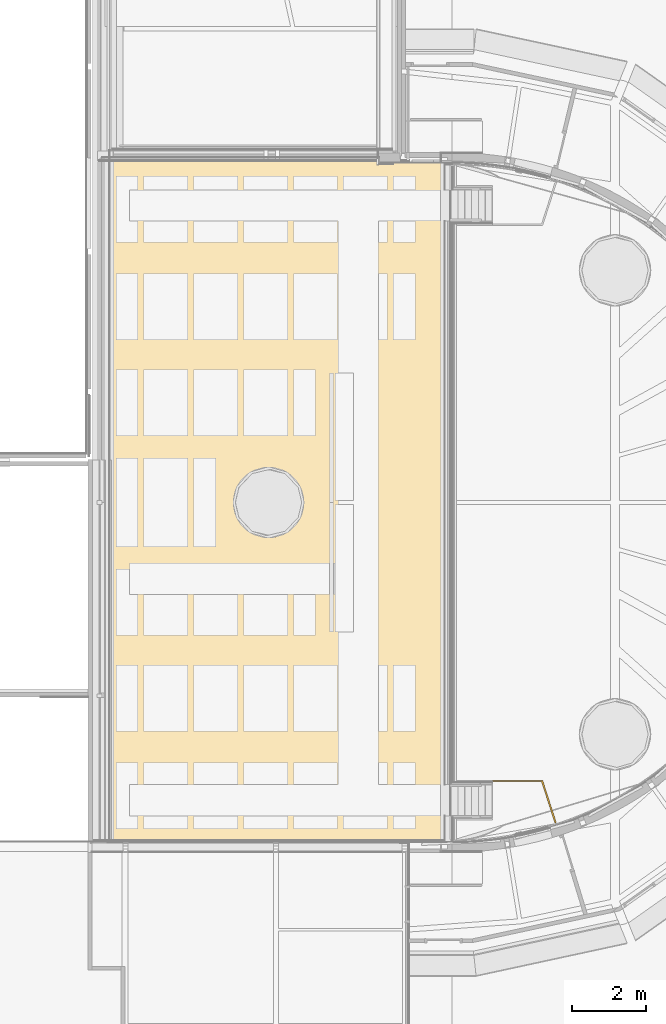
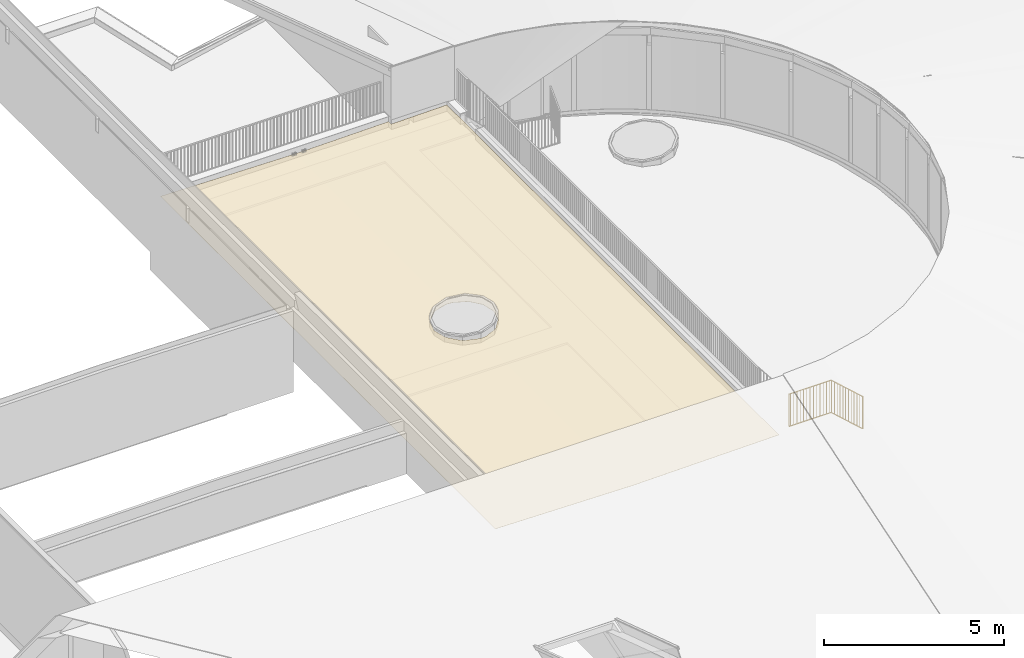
# One storey, part 63 of 66: 1 covering, 1 railing.
"""IFC2X3 building model written with IfcOpenShell, lengths in millimetres."""

from ifc_helpers import new_model, entity, si_unit, converted_unit, derived_unit, direction, frame, origin, place, context, subcontext, project, spatial, faceted_brep, material, material_list, layer, layer_set, layer_usage, type_object, element, save


model = new_model("IFC2X3")

# Units and contexts
model_context = context("Model", 3, precision=0.01, world=origin(), true_north=direction((6.12303176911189e-17, 1.0)))
body_context = subcontext(model_context, "Body", "Model", "MODEL_VIEW")
ifc_project = project(units=[si_unit("LENGTHUNIT", "METRE", prefix="MILLI"), si_unit("AREAUNIT", "SQUARE_METRE"), si_unit("VOLUMEUNIT", "CUBIC_METRE"), converted_unit("PLANEANGLEUNIT", "DEGREE", entity("IfcRatioMeasure", 0.0174532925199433), si_unit("PLANEANGLEUNIT", "RADIAN"), dimensions=[0, 0, 0, 0, 0, 0, 0]), si_unit("MASSUNIT", "GRAM", prefix="KILO"), derived_unit("MASSDENSITYUNIT", [(si_unit("MASSUNIT", "GRAM", prefix="KILO"), 1), (si_unit("LENGTHUNIT", "METRE"), -3)]), derived_unit("MOMENTOFINERTIAUNIT", [(si_unit("LENGTHUNIT", "METRE"), 4)]), si_unit("TIMEUNIT", "SECOND"), si_unit("FREQUENCYUNIT", "HERTZ"), si_unit("THERMODYNAMICTEMPERATUREUNIT", "DEGREE_CELSIUS"), derived_unit("THERMALTRANSMITTANCEUNIT", [(si_unit("MASSUNIT", "GRAM", prefix="KILO"), 1), (si_unit("THERMODYNAMICTEMPERATUREUNIT", "KELVIN"), -1), (si_unit("TIMEUNIT", "SECOND"), -3)]), derived_unit("VOLUMETRICFLOWRATEUNIT", [(si_unit("LENGTHUNIT", "METRE"), 3), (si_unit("TIMEUNIT", "SECOND"), -1)]), si_unit("ELECTRICCURRENTUNIT", "AMPERE"), si_unit("ELECTRICVOLTAGEUNIT", "VOLT"), si_unit("POWERUNIT", "WATT"), si_unit("FORCEUNIT", "NEWTON", prefix="KILO"), si_unit("ILLUMINANCEUNIT", "LUX"), si_unit("LUMINOUSFLUXUNIT", "LUMEN"), si_unit("LUMINOUSINTENSITYUNIT", "CANDELA"), derived_unit("USERDEFINED", [(si_unit("MASSUNIT", "GRAM", prefix="KILO"), -1), (si_unit("LENGTHUNIT", "METRE"), -2), (si_unit("TIMEUNIT", "SECOND"), 3), (si_unit("LUMINOUSFLUXUNIT", "LUMEN"), 1)]), derived_unit("LINEARVELOCITYUNIT", [(si_unit("LENGTHUNIT", "METRE"), 1), (si_unit("TIMEUNIT", "SECOND"), -1)]), si_unit("PRESSUREUNIT", "PASCAL"), derived_unit("USERDEFINED", [(si_unit("LENGTHUNIT", "METRE"), -2), (si_unit("MASSUNIT", "GRAM", prefix="KILO"), 1), (si_unit("TIMEUNIT", "SECOND"), -2)]), derived_unit("LINEARFORCEUNIT", [(si_unit("MASSUNIT", "GRAM", prefix="KILO"), 1), (si_unit("LENGTHUNIT", "METRE"), 1), (si_unit("TIMEUNIT", "SECOND"), -2), (si_unit("LENGTHUNIT", "METRE"), -1)]), derived_unit("PLANARFORCEUNIT", [(si_unit("MASSUNIT", "GRAM", prefix="KILO"), 1), (si_unit("LENGTHUNIT", "METRE"), 1), (si_unit("TIMEUNIT", "SECOND"), -2), (si_unit("LENGTHUNIT", "METRE"), -2)])], contexts=[model_context])

# Site, building, storey
site_placement = place(None, origin())
site = spatial("IfcSite", under=ifc_project, at=site_placement, Name="Default", CompositionType="ELEMENT")
building_placement = place(site_placement, origin())
building = spatial("IfcBuilding", under=site, at=building_placement, Name="-", CompositionType="ELEMENT")
storey_placement = place(building_placement, frame((0.0, 0.0, 3070.0)))
storey = spatial("IfcBuildingStorey", under=building, at=storey_placement, Name="01 eerste verdieping", CompositionType="ELEMENT", Elevation=3070.00000000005)

# Covering
ifc_material_1 = material(Name="NLRS_n2_bitumen_dak bedekking")
ifc_layer = layer(ifc_material_1, 6.0)
ifc_layer_set = layer_set([ifc_layer], Name="Basic Roof:47.11_2 laagse Bitumen dakbedekking")
ifc_layer_usage = layer_usage(ifc_layer_set, "AXIS3", "NEGATIVE", 0.0)
covering_type = type_object("IfcCoveringType", Name="Basic Roof:47.11_2 laagse Bitumen dakbedekking", PredefinedType="NOTDEFINED")
covering_placement = place(storey_placement, frame((41367.6645167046, 10402.124095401, 1528.17731722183)))
element("IfcCovering", 1, at=covering_placement, inside=storey, type_object=covering_type, material=ifc_layer_usage, Name="Basic Roof:47.11_2 laagse Bitumen dakbedekking", ObjectType="Basic Roof:47.11_2 laagse Bitumen dakbedekking", PredefinedType="NOTDEFINED", context=body_context, shape_type="Brep", body=[
    faceted_brep([(4496.76604073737, 8282.13721286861, 7.59527223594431), (4397.24522657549, 8267.79559752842, 7.59527223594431), (4296.76604073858, 8264.05292527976, 7.59527223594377), (4296.76604073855, 0.0, 7.59527223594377), (4496.76604073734, 0.0, 7.59527223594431), (4496.7660407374, 18561.5826870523, 7.59527223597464), (4296.76604073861, 18561.5826870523, 7.59527223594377), (4296.76604073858, 10163.8183418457, 7.59527223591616), (4397.2452265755, 10160.075669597, 7.59527223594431), (4496.76604073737, 10145.7340542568, 7.59527223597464), (4397.24569061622, 8267.79563948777, 1.59527223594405), (4496.81403766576, 8282.1467472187, 1.59527223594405), (4496.81403766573, 0.0, 1.59527223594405), (4296.71804381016, 0.0, 1.59527223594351), (4296.71804381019, 8264.05368078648, 1.59527223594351), (4296.71804381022, 18561.5826870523, 1.5952722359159), (4496.81403766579, 18561.5826870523, 1.59527223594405), (4496.81403766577, 10145.7245199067, 1.59527223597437), (4397.24569061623, 10160.0756276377, 1.59527223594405), (4296.7180438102, 10163.817586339, 1.59527223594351), (0.0, 18561.5826870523, 76.3435288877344), (7298.89814530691, 18561.5826870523, 52.4293859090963), (7298.89814530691, 18561.5826870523, 46.4286179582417), (0.0, 18561.5826870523, 70.3427609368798), (9076.1799132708, 0.0, 74.8651262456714), (9076.1799132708, 0.0, 80.865894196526), (0.0, 0.0, 76.3435288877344), (0.0, 0.0, 70.3427609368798), (7298.8981453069, 18415.3712671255, 52.4293859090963), (4693.32054974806, 10056.7322202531, 10.7401443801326), (4889.87505875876, 9967.73038624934, 13.8850165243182), (5026.77920668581, 9800.96031774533, 16.0754828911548), (5095.23128064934, 9717.57528349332, 17.1707160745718), (5163.68335461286, 9634.19024924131, 18.2659492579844), (5201.20518677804, 9473.3021971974, 18.8662985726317), (5231.44953539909, 9343.61891538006, 19.3502081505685), (5261.69388402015, 9213.93563356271, 19.8341177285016), (5212.6886193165, 9003.80832572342, 19.0500334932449), (5188.18598696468, 8898.74467180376, 18.6579913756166), (5163.68335461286, 8793.68101788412, 18.265949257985), (5026.77920668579, 8626.9109493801, 16.0754828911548), (4958.32713272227, 8543.52591512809, 14.9802497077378), (4889.87505875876, 8460.14088087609, 13.8850165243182), (4693.32054974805, 8371.13904687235, 10.7401443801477), (9076.17991327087, 18415.3712671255, 80.865894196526), (7298.89814530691, 18415.3712671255, 46.4286179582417), (9076.17991327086, 18415.3712671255, 74.8651262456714), (4693.35749076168, 8371.15374168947, 4.73996748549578), (4889.90094385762, 8460.16073616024, 7.88466273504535), (4958.34835046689, 8543.54446378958, 8.97982124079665), (5026.79575707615, 8626.92819141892, 10.0749797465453), (5163.69057029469, 8793.6956466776, 12.2652967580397), (5188.19139872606, 8898.75564339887, 12.6573100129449), (5212.69222715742, 9003.81564012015, 13.0493232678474), (5261.69388402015, 9213.93563356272, 13.8333497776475), (5237.19305558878, 9318.995630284, 13.4413365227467), (5212.69222715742, 9424.05562700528, 13.0493232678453), (5188.19139872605, 9529.11562372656, 12.6573100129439), (5175.94098451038, 9581.6456220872, 12.4613033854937), (5163.69057029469, 9634.17562044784, 12.2652967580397), (5095.24316368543, 9717.55934807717, 11.1701382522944), (5026.79575707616, 9800.94307570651, 10.0749797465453), (4889.90094385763, 9967.71053096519, 7.88466273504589), (4693.3574907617, 10056.717525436, 4.73996748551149), (4172.11539066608, 8301.71330426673, 9.58968263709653), (4047.46474059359, 8339.37368325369, 11.5840930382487), (3922.8140905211, 8377.03406224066, 13.5785034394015), (3798.16344044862, 8414.69444122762, 15.5729138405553), (3712.10544525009, 8512.41910634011, 16.9498417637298), (3626.04745005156, 8610.14377145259, 18.3267696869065), (3539.98945485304, 8707.86843656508, 19.7036976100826), (3453.93145965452, 8805.59310167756, 21.0806255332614), (3430.87206574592, 8907.67873464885, 21.4495758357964), (3407.81267183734, 9009.76436762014, 21.818526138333), (3384.75327792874, 9111.85000059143, 22.1874764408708), (3361.69388402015, 9213.93563356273, 22.5564267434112), (3397.39091288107, 9339.16267073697, 21.9852742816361), (3433.087941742, 9464.38970791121, 21.4141218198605), (3468.78497060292, 9589.61674508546, 20.8429693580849), (3504.48199946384, 9714.8437822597, 20.271816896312), (3600.8423250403, 9802.42675071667, 18.7300516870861), (3697.20265061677, 9890.00971917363, 17.1882864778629), (3793.56297619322, 9977.5926876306, 15.6465212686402), (3889.92330176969, 10065.1756560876, 14.1047560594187), (3991.63398651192, 10089.8363275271, 12.4773851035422), (4093.34467125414, 10114.4969989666, 10.8500141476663), (4195.05535599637, 10139.1576704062, 9.22264319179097), (4172.07290257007, 10126.1532258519, 3.58959449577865), (4047.42776132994, 10088.4888653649, 5.58391675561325), (3922.78262008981, 10050.8245048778, 7.57823901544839), (3798.13747884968, 10013.1601443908, 9.57256127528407), (3712.08450026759, 9915.43655377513, 10.9494089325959), (3626.03152168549, 9817.71296315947, 12.3262565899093), (3539.9785431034, 9719.9893725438, 13.7031042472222), (3453.9255645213, 9622.26578192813, 15.0799519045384), (3430.86764439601, 9520.18324483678, 15.4488786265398), (3407.80972427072, 9418.10070774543, 15.817805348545), (3384.75180414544, 9316.01817065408, 16.1867320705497), (3361.69388402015, 9213.93563356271, 16.5556587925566), (3397.38865304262, 9088.71223818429, 15.9845424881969), (3433.08342206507, 8963.48884280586, 15.4134261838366), (3468.77819108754, 8838.26544742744, 14.8423098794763), (3504.47296011, 8713.042052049, 14.2711935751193), (3600.82786477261, 8625.45924761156, 12.7295151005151), (3697.18276943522, 8537.87644317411, 11.1878366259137), (3793.53767409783, 8450.29363873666, 9.64615815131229), (3889.89257876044, 8362.71083429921, 8.10447967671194), (3991.59894502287, 8338.04654592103, 6.47717781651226), (4093.30531128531, 8313.38225754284, 4.84987595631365), (4195.01167754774, 8288.71796916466, 3.22257409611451)], [[[0, 1, 2, 3, 4]], [[5, 6, 7, 8, 9]], [[10, 11, 12, 13, 14]], [[15, 16, 17, 18, 19]], [[20, 6, 5, 21, 22, 16, 15, 23]], [[24, 25, 4, 3, 26, 27, 13, 12]], [[28, 21, 5, 9, 29, 30, 31, 32, 33, 34, 35, 36, 37, 38, 39, 40, 41, 42, 43, 0, 4, 25, 44]], [[45, 46, 24, 12, 11, 47, 48, 49, 50, 51, 52, 53, 54, 55, 56, 57, 58, 59, 60, 61, 62, 63, 17, 16, 22]], [[20, 26, 3, 2, 64, 65, 66, 67, 68, 69, 70, 71, 72, 73, 74, 75, 76, 77, 78, 79, 80, 81, 82, 83, 84, 85, 86, 7, 6]], [[46, 44, 25, 24]], [[15, 19, 87, 88, 89, 90, 91, 92, 93, 94, 95, 96, 97, 98, 99, 100, 101, 102, 103, 104, 105, 106, 107, 108, 109, 14, 13, 27, 23]], [[20, 23, 27, 26]], [[108, 65, 64]], [[65, 107, 66]], [[67, 66, 106]], [[2, 1, 10]], [[10, 14, 2]], [[106, 105, 67]], [[67, 105, 68]], [[99, 73, 100]], [[70, 102, 71]], [[101, 71, 102]], [[69, 68, 104]], [[108, 107, 65]], [[102, 70, 103]], [[106, 66, 107]], [[43, 42, 48]], [[109, 108, 64]], [[1, 0, 10]], [[11, 10, 0]], [[47, 43, 48]], [[69, 103, 70]], [[73, 72, 100]], [[11, 0, 47]], [[43, 47, 0]], [[49, 48, 42]], [[51, 39, 52]], [[99, 98, 74]], [[14, 109, 2]], [[37, 36, 54]], [[51, 40, 39]], [[104, 103, 69]], [[104, 68, 105]], [[64, 2, 109]], [[100, 72, 101]], [[71, 101, 72]], [[75, 74, 98]], [[74, 73, 99]], [[41, 50, 49]], [[50, 40, 51]], [[41, 40, 50]], [[41, 49, 42]], [[38, 53, 52]], [[53, 37, 54]], [[38, 37, 53]], [[38, 52, 39]], [[9, 17, 63]], [[94, 78, 95]], [[8, 18, 9]], [[17, 9, 18]], [[77, 95, 78]], [[63, 62, 29]], [[59, 58, 57, 33]], [[86, 85, 87, 7]], [[33, 32, 59]], [[31, 30, 61]], [[81, 80, 92]], [[54, 36, 55]], [[85, 84, 88]], [[76, 75, 97]], [[83, 82, 90]], [[98, 97, 75]], [[19, 7, 87]], [[7, 18, 8]], [[87, 85, 88]], [[90, 82, 91]], [[7, 19, 18]], [[89, 83, 90]], [[29, 9, 63]], [[91, 81, 92]], [[96, 77, 76]], [[79, 93, 80]], [[89, 88, 84]], [[79, 78, 94]], [[79, 94, 93]], [[92, 80, 93]], [[96, 95, 77]], [[30, 29, 62]], [[84, 83, 89]], [[81, 91, 82]], [[97, 96, 76]], [[34, 33, 57]], [[35, 56, 55]], [[57, 56, 34]], [[35, 34, 56]], [[35, 55, 36]], [[62, 61, 30]], [[60, 32, 31]], [[61, 60, 31]], [[60, 59, 32]], [[28, 44, 46, 45]], [[45, 22, 21, 28]]]),
])

# Railing
ifc_material_2 = material(Name="AL_Aluminium antraciet")
ifc_material_3 = material(Name="AL_Aluminium RAL 7021")
ifc_material_list = material_list([ifc_material_2, ifc_material_3])
railing_placement = place(storey_placement, frame((51726.6203901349, 10938.2825559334, 425.0)))
element("IfcRailing", 2, at=railing_placement, inside=storey, material=ifc_material_list, Name="Railing:NLRS_34_RAI_UN_spijlen 2", ObjectType="Railing:NLRS_34_RAI_UN_spijlen 2", PredefinedType="NOTDEFINED", context=body_context, shape_type="Brep", body=[
    faceted_brep([(54.7762133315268, 1150.61404051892, 1095.0), (44.7762133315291, 1150.61404051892, 1095.0), (44.7762133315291, 1125.61404051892, 1095.0), (54.7762133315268, 1125.61404051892, 1095.0), (54.7762133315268, 1150.61404051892, 5.0), (54.7762133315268, 1125.61404051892, 5.0), (44.7762133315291, 1125.61404051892, 5.0), (44.7762133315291, 1150.61404051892, 5.0)], [[[0, 1, 2, 3]], [[4, 5, 6, 7]], [[1, 0, 4, 7]], [[2, 1, 7, 6]], [[3, 2, 6, 5]], [[0, 3, 5, 4]]]),
    faceted_brep([(159.776213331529, 1150.61404051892, 1095.0), (149.776213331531, 1150.61404051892, 1095.0), (149.776213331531, 1125.61404051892, 1095.0), (159.776213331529, 1125.61404051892, 1095.0), (159.776213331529, 1150.61404051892, 5.0), (159.776213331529, 1125.61404051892, 5.0), (149.776213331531, 1125.61404051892, 5.0), (149.776213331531, 1150.61404051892, 5.0)], [[[0, 1, 2, 3]], [[4, 5, 6, 7]], [[1, 0, 4, 7]], [[2, 1, 7, 6]], [[3, 2, 6, 5]], [[0, 3, 5, 4]]]),
    faceted_brep([(264.776213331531, 1150.61404051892, 1095.0), (254.776213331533, 1150.61404051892, 1095.0), (254.776213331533, 1125.61404051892, 1095.0), (264.776213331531, 1125.61404051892, 1095.0), (264.776213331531, 1150.61404051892, 5.0), (264.776213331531, 1125.61404051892, 5.0), (254.776213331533, 1125.61404051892, 5.0), (254.776213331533, 1150.61404051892, 5.0)], [[[0, 1, 2, 3]], [[4, 5, 6, 7]], [[1, 0, 4, 7]], [[2, 1, 7, 6]], [[3, 2, 6, 5]], [[0, 3, 5, 4]]]),
    faceted_brep([(369.776213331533, 1150.61404051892, 1095.0), (359.776213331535, 1150.61404051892, 1095.0), (359.776213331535, 1125.61404051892, 1095.0), (369.776213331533, 1125.61404051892, 1095.0), (369.776213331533, 1150.61404051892, 5.0), (369.776213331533, 1125.61404051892, 5.0), (359.776213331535, 1125.61404051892, 5.0), (359.776213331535, 1150.61404051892, 5.0)], [[[0, 1, 2, 3]], [[4, 5, 6, 7]], [[1, 0, 4, 7]], [[2, 1, 7, 6]], [[3, 2, 6, 5]], [[0, 3, 5, 4]]]),
    faceted_brep([(474.776213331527, 1150.61404051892, 1095.0), (464.776213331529, 1150.61404051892, 1095.0), (464.776213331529, 1125.61404051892, 1095.0), (474.776213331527, 1125.61404051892, 1095.0), (474.776213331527, 1150.61404051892, 5.0), (474.776213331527, 1125.61404051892, 5.0), (464.776213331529, 1125.61404051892, 5.0), (464.776213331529, 1150.61404051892, 5.0)], [[[0, 1, 2, 3]], [[4, 5, 6, 7]], [[1, 0, 4, 7]], [[2, 1, 7, 6]], [[3, 2, 6, 5]], [[0, 3, 5, 4]]]),
    faceted_brep([(579.776213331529, 1150.61404051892, 1095.0), (569.776213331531, 1150.61404051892, 1095.0), (569.776213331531, 1125.61404051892, 1095.0), (579.776213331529, 1125.61404051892, 1095.0), (579.776213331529, 1150.61404051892, 5.0), (579.776213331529, 1125.61404051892, 5.0), (569.776213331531, 1125.61404051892, 5.0), (569.776213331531, 1150.61404051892, 5.0)], [[[0, 1, 2, 3]], [[4, 5, 6, 7]], [[1, 0, 4, 7]], [[2, 1, 7, 6]], [[3, 2, 6, 5]], [[0, 3, 5, 4]]]),
    faceted_brep([(684.776213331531, 1150.61404051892, 1095.0), (674.776213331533, 1150.61404051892, 1095.0), (674.776213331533, 1125.61404051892, 1095.0), (684.776213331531, 1125.61404051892, 1095.0), (684.776213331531, 1150.61404051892, 5.0), (684.776213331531, 1125.61404051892, 5.0), (674.776213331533, 1125.61404051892, 5.0), (674.776213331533, 1150.61404051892, 5.0)], [[[0, 1, 2, 3]], [[4, 5, 6, 7]], [[1, 0, 4, 7]], [[2, 1, 7, 6]], [[3, 2, 6, 5]], [[0, 3, 5, 4]]]),
    faceted_brep([(789.776213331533, 1150.61404051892, 1095.0), (779.776213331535, 1150.61404051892, 1095.0), (779.776213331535, 1125.61404051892, 1095.0), (789.776213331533, 1125.61404051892, 1095.0), (789.776213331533, 1150.61404051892, 5.0), (789.776213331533, 1125.61404051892, 5.0), (779.776213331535, 1125.61404051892, 5.0), (779.776213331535, 1150.61404051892, 5.0)], [[[0, 1, 2, 3]], [[4, 5, 6, 7]], [[1, 0, 4, 7]], [[2, 1, 7, 6]], [[3, 2, 6, 5]], [[0, 3, 5, 4]]]),
    faceted_brep([(894.776213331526, 1150.61404051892, 1095.0), (884.776213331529, 1150.61404051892, 1095.0), (884.776213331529, 1125.61404051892, 1095.0), (894.776213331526, 1125.61404051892, 1095.0), (894.776213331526, 1150.61404051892, 5.0), (894.776213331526, 1125.61404051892, 5.0), (884.776213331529, 1125.61404051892, 5.0), (884.776213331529, 1150.61404051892, 5.0)], [[[0, 1, 2, 3]], [[4, 5, 6, 7]], [[1, 0, 4, 7]], [[2, 1, 7, 6]], [[3, 2, 6, 5]], [[0, 3, 5, 4]]]),
    faceted_brep([(999.776213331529, 1150.61404051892, 1095.0), (989.776213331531, 1150.61404051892, 1095.0), (989.776213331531, 1125.61404051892, 1095.0), (999.776213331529, 1125.61404051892, 1095.0), (999.776213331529, 1150.61404051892, 5.0), (999.776213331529, 1125.61404051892, 5.0), (989.776213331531, 1125.61404051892, 5.0), (989.776213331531, 1150.61404051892, 5.0)], [[[0, 1, 2, 3]], [[4, 5, 6, 7]], [[1, 0, 4, 7]], [[2, 1, 7, 6]], [[3, 2, 6, 5]], [[0, 3, 5, 4]]]),
    faceted_brep([(1104.77621333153, 1150.61404051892, 1095.0), (1094.77621333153, 1150.61404051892, 1095.0), (1094.77621333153, 1125.61404051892, 1095.0), (1104.77621333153, 1125.61404051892, 1095.0), (1104.77621333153, 1150.61404051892, 5.0), (1104.77621333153, 1125.61404051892, 5.0), (1094.77621333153, 1125.61404051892, 5.0), (1094.77621333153, 1150.61404051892, 5.0)], [[[0, 1, 2, 3]], [[4, 5, 6, 7]], [[1, 0, 4, 7]], [[2, 1, 7, 6]], [[3, 2, 6, 5]], [[0, 3, 5, 4]]]),
    faceted_brep([(1209.77621333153, 1150.61404051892, 1095.0), (1199.77621333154, 1150.61404051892, 1095.0), (1199.77621333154, 1125.61404051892, 1095.0), (1209.77621333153, 1125.61404051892, 1095.0), (1209.77621333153, 1150.61404051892, 5.0), (1209.77621333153, 1125.61404051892, 5.0), (1199.77621333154, 1125.61404051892, 5.0), (1199.77621333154, 1150.61404051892, 5.0)], [[[0, 1, 2, 3]], [[4, 5, 6, 7]], [[1, 0, 4, 7]], [[2, 1, 7, 6]], [[3, 2, 6, 5]], [[0, 3, 5, 4]]]),
    faceted_brep([(1314.77621333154, 1150.61404051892, 1095.0), (1304.77621333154, 1150.61404051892, 1095.0), (1304.77621333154, 1125.61404051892, 1095.0), (1314.77621333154, 1125.61404051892, 1095.0), (1314.77621333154, 1150.61404051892, 5.0), (1314.77621333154, 1125.61404051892, 5.0), (1304.77621333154, 1125.61404051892, 5.0), (1304.77621333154, 1150.61404051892, 5.0)], [[[0, 1, 2, 3]], [[4, 5, 6, 7]], [[1, 0, 4, 7]], [[2, 1, 7, 6]], [[3, 2, 6, 5]], [[0, 3, 5, 4]]]),
    faceted_brep([(1372.89166024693, 1121.99884929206, 1095.0), (1369.8188194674, 1131.51502759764, 1095.0), (1346.02837370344, 1123.83292564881, 1095.0), (1349.10121448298, 1114.31674734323, 1095.0), (1372.89166024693, 1121.99884929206, 5.0), (1349.10121448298, 1114.31674734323, 5.0), (1346.02837370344, 1123.83292564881, 5.0), (1369.8188194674, 1131.51502759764, 5.0)], [[[0, 1, 2, 3]], [[4, 5, 6, 7]], [[1, 0, 4, 7]], [[2, 1, 7, 6]], [[3, 2, 6, 5]], [[0, 3, 5, 4]]]),
    faceted_brep([(1405.15648843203, 1022.07897708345, 1095.0), (1402.0836476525, 1031.59515538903, 1095.0), (1378.29320188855, 1023.91305344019, 1095.0), (1381.36604266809, 1014.39687513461, 1095.0), (1405.15648843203, 1022.07897708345, 5.0), (1381.36604266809, 1014.39687513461, 5.0), (1378.29320188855, 1023.91305344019, 5.0), (1402.0836476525, 1031.59515538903, 5.0)], [[[0, 1, 2, 3]], [[4, 5, 6, 7]], [[1, 0, 4, 7]], [[2, 1, 7, 6]], [[3, 2, 6, 5]], [[0, 3, 5, 4]]]),
    faceted_brep([(1437.42131661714, 922.159104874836, 1095.0), (1434.34847583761, 931.675283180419, 1095.0), (1410.55803007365, 923.993181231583, 1095.0), (1413.63087085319, 914.477002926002, 1095.0), (1437.42131661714, 922.159104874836, 5.0), (1413.63087085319, 914.477002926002, 5.0), (1410.55803007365, 923.993181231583, 5.0), (1434.34847583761, 931.675283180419, 5.0)], [[[0, 1, 2, 3]], [[4, 5, 6, 7]], [[1, 0, 4, 7]], [[2, 1, 7, 6]], [[3, 2, 6, 5]], [[0, 3, 5, 4]]]),
    faceted_brep([(1469.68614480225, 822.239232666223, 1095.0), (1466.61330402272, 831.755410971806, 1095.0), (1442.82285825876, 824.07330902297, 1095.0), (1445.8956990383, 814.557130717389, 1095.0), (1469.68614480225, 822.239232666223, 5.0), (1445.8956990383, 814.557130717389, 5.0), (1442.82285825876, 824.07330902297, 5.0), (1466.61330402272, 831.755410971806, 5.0)], [[[0, 1, 2, 3]], [[4, 5, 6, 7]], [[1, 0, 4, 7]], [[2, 1, 7, 6]], [[3, 2, 6, 5]], [[0, 3, 5, 4]]]),
    faceted_brep([(1501.95097298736, 722.31936045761, 1095.0), (1498.87813220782, 731.835538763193, 1095.0), (1475.08768644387, 724.153436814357, 1095.0), (1478.16052722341, 714.637258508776, 1095.0), (1501.95097298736, 722.31936045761, 5.0), (1478.16052722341, 714.637258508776, 5.0), (1475.08768644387, 724.153436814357, 5.0), (1498.87813220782, 731.835538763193, 5.0)], [[[0, 1, 2, 3]], [[4, 5, 6, 7]], [[1, 0, 4, 7]], [[2, 1, 7, 6]], [[3, 2, 6, 5]], [[0, 3, 5, 4]]]),
    faceted_brep([(1534.21580117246, 622.399488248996, 1095.0), (1531.14296039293, 631.91566655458, 1095.0), (1507.35251462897, 624.233564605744, 1095.0), (1510.42535540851, 614.717386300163, 1095.0), (1534.21580117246, 622.399488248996, 5.0), (1510.42535540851, 614.717386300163, 5.0), (1507.35251462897, 624.233564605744, 5.0), (1531.14296039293, 631.91566655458, 5.0)], [[[0, 1, 2, 3]], [[4, 5, 6, 7]], [[1, 0, 4, 7]], [[2, 1, 7, 6]], [[3, 2, 6, 5]], [[0, 3, 5, 4]]]),
    faceted_brep([(1566.48062935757, 522.479616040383, 1095.0), (1563.40778857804, 531.995794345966, 1095.0), (1539.61734281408, 524.313692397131, 1095.0), (1542.69018359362, 514.79751409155, 1095.0), (1566.48062935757, 522.479616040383, 5.0), (1542.69018359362, 514.79751409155, 5.0), (1539.61734281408, 524.313692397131, 5.0), (1563.40778857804, 531.995794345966, 5.0)], [[[0, 1, 2, 3]], [[4, 5, 6, 7]], [[1, 0, 4, 7]], [[2, 1, 7, 6]], [[3, 2, 6, 5]], [[0, 3, 5, 4]]]),
    faceted_brep([(1598.74545754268, 422.55974383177, 1095.0), (1595.67261676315, 432.075922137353, 1095.0), (1571.88217099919, 424.393820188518, 1095.0), (1574.95501177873, 414.877641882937, 1095.0), (1598.74545754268, 422.55974383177, 5.0), (1574.95501177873, 414.877641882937, 5.0), (1571.88217099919, 424.393820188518, 5.0), (1595.67261676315, 432.075922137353, 5.0)], [[[0, 1, 2, 3]], [[4, 5, 6, 7]], [[1, 0, 4, 7]], [[2, 1, 7, 6]], [[3, 2, 6, 5]], [[0, 3, 5, 4]]]),
    faceted_brep([(1631.01028572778, 322.639871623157, 1095.0), (1627.93744494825, 332.15604992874, 1095.0), (1604.14699918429, 324.473947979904, 1095.0), (1607.21983996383, 314.957769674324, 1095.0), (1631.01028572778, 322.639871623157, 5.0), (1607.21983996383, 314.957769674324, 5.0), (1604.14699918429, 324.473947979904, 5.0), (1627.93744494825, 332.15604992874, 5.0)], [[[0, 1, 2, 3]], [[4, 5, 6, 7]], [[1, 0, 4, 7]], [[2, 1, 7, 6]], [[3, 2, 6, 5]], [[0, 3, 5, 4]]]),
    faceted_brep([(1663.27511391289, 222.719999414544, 1095.0), (1660.20227313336, 232.236177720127, 1095.0), (1636.4118273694, 224.554075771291, 1095.0), (1639.48466814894, 215.03789746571, 1095.0), (1663.27511391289, 222.719999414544, 5.0), (1639.48466814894, 215.03789746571, 5.0), (1636.4118273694, 224.554075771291, 5.0), (1660.20227313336, 232.236177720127, 5.0)], [[[0, 1, 2, 3]], [[4, 5, 6, 7]], [[1, 0, 4, 7]], [[2, 1, 7, 6]], [[3, 2, 6, 5]], [[0, 3, 5, 4]]]),
    faceted_brep([(1695.539942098, 122.800127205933, 1095.0), (1692.46710131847, 132.316305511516, 1095.0), (1668.67665555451, 124.63420356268, 1095.0), (1671.74949633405, 115.1180252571, 1095.0), (1695.539942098, 122.800127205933, 5.0), (1671.74949633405, 115.1180252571, 5.0), (1668.67665555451, 124.63420356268, 5.0), (1692.46710131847, 132.316305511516, 5.0)], [[[0, 1, 2, 3]], [[4, 5, 6, 7]], [[1, 0, 4, 7]], [[2, 1, 7, 6]], [[3, 2, 6, 5]], [[0, 3, 5, 4]]]),
    faceted_brep([(1727.8047702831, 22.88025499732, 1095.0), (1724.73192950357, 32.396433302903, 1095.0), (1700.94148373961, 24.7143313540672, 1095.0), (1704.01432451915, 15.1981530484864, 1095.0), (1727.8047702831, 22.88025499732, 5.0), (1704.01432451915, 15.1981530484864, 5.0), (1700.94148373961, 24.7143313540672, 5.0), (1724.73192950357, 32.396433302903, 5.0)], [[[0, 1, 2, 3]], [[4, 5, 6, 7]], [[1, 0, 4, 7]], [[2, 1, 7, 6]], [[3, 2, 6, 5]], [[0, 3, 5, 4]]]),
    faceted_brep([(10.0, 1150.61404051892, 1095.0), (0.0, 1150.61404051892, 1095.0), (0.0, 1125.61404051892, 1095.0), (10.0, 1125.61404051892, 1095.0), (10.0, 1150.61404051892, 5.0), (10.0, 1125.61404051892, 5.0), (0.0, 1125.61404051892, 5.0), (0.0, 1150.61404051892, 5.0)], [[[0, 1, 2, 3]], [[4, 5, 6, 7]], [[1, 0, 4, 7]], [[2, 1, 7, 6]], [[3, 2, 6, 5]], [[0, 3, 5, 4]]]),
    faceted_brep([(1732.71236059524, 7.68210194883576, 1095.0), (1729.63951981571, 17.1982802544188, 1095.0), (1705.84907405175, 9.51617830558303, 1095.0), (1708.92191483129, 0.0, 1095.0), (1732.71236059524, 7.68210194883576, 5.0), (1708.92191483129, 0.0, 5.0), (1705.84907405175, 9.51617830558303, 5.0), (1729.63951981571, 17.1982802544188, 5.0)], [[[0, 1, 2, 3]], [[4, 5, 6, 7]], [[1, 0, 4, 7]], [[2, 1, 7, 6]], [[3, 2, 6, 5]], [[0, 3, 5, 4]]]),
    faceted_brep([(1738.31307393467, 14.7448216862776, 1100.0), (1700.24836071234, 2.45345856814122, 1100.0), (1700.24836071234, 2.45345856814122, 1090.0), (1738.31307393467, 14.7448216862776, 1090.0), (1369.11112659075, 1158.11404051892, 1100.0), (1339.99372673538, 1118.11404051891, 1100.0), (1339.99372673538, 1118.11404051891, 1090.0), (1369.11112659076, 1158.11404051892, 1090.0), (5.0, 1158.11404051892, 1100.0), (5.0, 1158.11404051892, 1090.0), (5.0, 1118.11404051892, 1090.0), (5.0, 1118.11404051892, 1100.0)], [[[0, 1, 2, 3]], [[1, 0, 4, 5]], [[2, 1, 5, 6]], [[3, 2, 6, 7]], [[0, 3, 7, 4]], [[8, 9, 10, 11]], [[5, 4, 8, 11]], [[6, 5, 11, 10]], [[7, 6, 10, 9]], [[4, 7, 9, 8]]]),
    faceted_brep([(1738.31307393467, 14.7448216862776, 10.0), (1700.24836071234, 2.45345856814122, 10.0), (1700.24836071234, 2.45345856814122, 0.0), (1738.31307393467, 14.7448216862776, 0.0), (1369.11112659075, 1158.11404051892, 10.0), (1339.99372673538, 1118.11404051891, 10.0), (1339.99372673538, 1118.11404051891, 0.0), (1369.11112659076, 1158.11404051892, 0.0), (5.0, 1158.11404051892, 10.0), (5.0, 1158.11404051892, 0.0), (5.0, 1118.11404051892, 0.0), (5.0, 1118.11404051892, 10.0)], [[[0, 1, 2, 3]], [[1, 0, 4, 5]], [[2, 1, 5, 6]], [[3, 2, 6, 7]], [[0, 3, 7, 4]], [[8, 9, 10, 11]], [[5, 4, 8, 11]], [[6, 5, 11, 10]], [[7, 6, 10, 9]], [[4, 7, 9, 8]]]),
])

save(model, "model.ifc")
